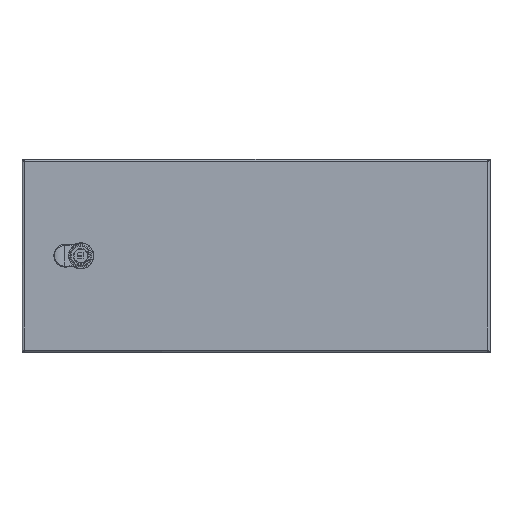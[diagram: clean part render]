
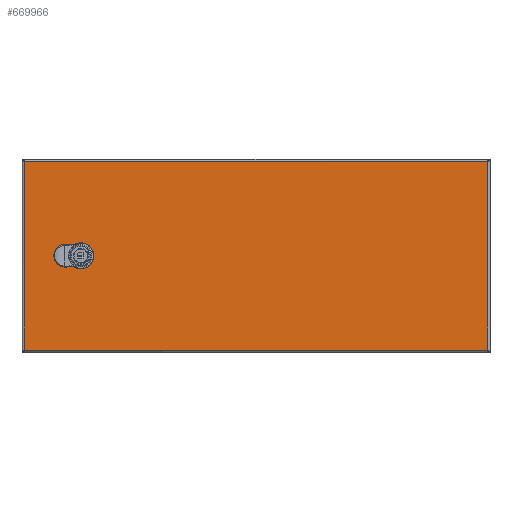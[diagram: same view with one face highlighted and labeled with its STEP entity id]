
A CAD part, top view. The second image highlights one B-rep face of the part: STEP entity #669966.
In plain terms, the highlighted planar face has unit normal (0, 0, 1).
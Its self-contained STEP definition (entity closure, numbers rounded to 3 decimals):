
#663876=CARTESIAN_POINT(' ',(308.602,110.657,253.699));
#663877=VERTEX_POINT(' ',#663876);
#664541=CARTESIAN_POINT(' ',(308.602,-128.743,253.699));
#664542=VERTEX_POINT(' ',#664541);
#665516=CARTESIAN_POINT(' ',(308.602,110.657,253.699));
#665521=DIRECTION(' ',(0.,-1.,0.));
#665526=VECTOR(' ',#665521,1.);
#665531=LINE('',#665516,#665526);
#665536=EDGE_CURVE(' ',#663877,#664542,#665531,.T.);
#667771=CARTESIAN_POINT(' ',(-279.798,-128.743,253.699));
#667772=VERTEX_POINT(' ',#667771);
#668386=CARTESIAN_POINT(' ',(-279.798,110.657,253.699));
#668387=VERTEX_POINT(' ',#668386);
#669836=DIRECTION(' ',(-0.,-0.,1.));
#669841=CARTESIAN_POINT(' ',(308.602,-128.743,253.699));
#669846=DIRECTION(' ',(0.,1.,0.));
#669851=AXIS2_PLACEMENT_3D(' ',#669841,#669836,#669846);
#669856=PLANE('NONE',#669851);
#669861=CARTESIAN_POINT(' ',(-279.798,-128.743,253.699));
#669866=DIRECTION(' ',(1.,0.,0.));
#669871=VECTOR(' ',#669866,1.);
#669876=LINE('',#669861,#669871);
#669881=EDGE_CURVE(' ',#667772,#664542,#669876,.T.);
#669886=ORIENTED_EDGE(' ',*,*,#669881,.T.);
#669891=ORIENTED_EDGE(' ',*,*,#665536,.F.);
#669896=CARTESIAN_POINT(' ',(308.602,110.657,253.699));
#669901=DIRECTION(' ',(-1.,0.,0.));
#669906=VECTOR(' ',#669901,1.);
#669911=LINE('',#669896,#669906);
#669916=EDGE_CURVE(' ',#663877,#668387,#669911,.T.);
#669921=ORIENTED_EDGE(' ',*,*,#669916,.T.);
#669926=CARTESIAN_POINT(' ',(-279.798,110.657,253.699));
#669931=DIRECTION(' ',(0.,-1.,0.));
#669936=VECTOR(' ',#669931,1.);
#669941=LINE('',#669926,#669936);
#669946=EDGE_CURVE(' ',#668387,#667772,#669941,.T.);
#669951=ORIENTED_EDGE(' ',*,*,#669946,.T.);
#669956=EDGE_LOOP(' ',(#669886,#669891,#669921,#669951));
#669961=FACE_OUTER_BOUND(' ',#669956,.T.);
#669966=ADVANCED_FACE('NONE',(#669961),#669856,.T.);
